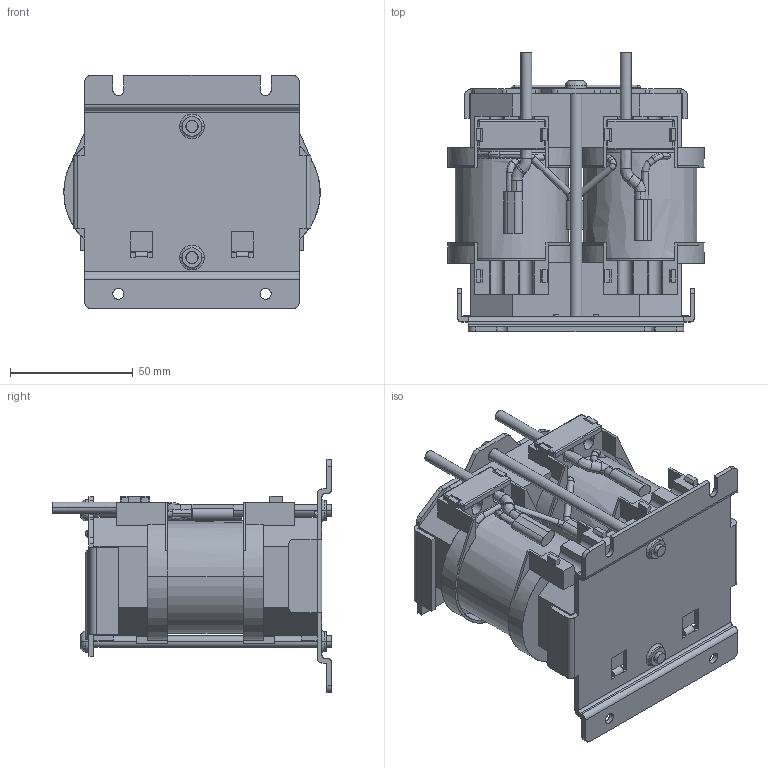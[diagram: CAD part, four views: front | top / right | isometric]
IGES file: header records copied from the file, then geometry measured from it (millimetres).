
Start section: SolidWorks IGES file using analytic representation for surfaces
Global section: file name: \\10.106.230.1\r&d file\05_COMP\02_Mechanical\10_Others\PV_RT 81\网络用3D模型\立式\网络用模型\5KW_S_DCL.IGS; native system: SolidWorks 2009; preprocessor: SolidWorks 2009; author: 钱雅婧,,1; organization: 1; date: 120508.151748; units: millimetre
Bounding box: 104.5 x 114 x 95 mm (x, y, z)
Surface area: 111687.2 mm2 (no closed solid volume)
Topology: 0 solids, 0 shells, 750 faces, 6516 edges, 6500 vertices
Faces by surface type: bspline 491, revolution 259
